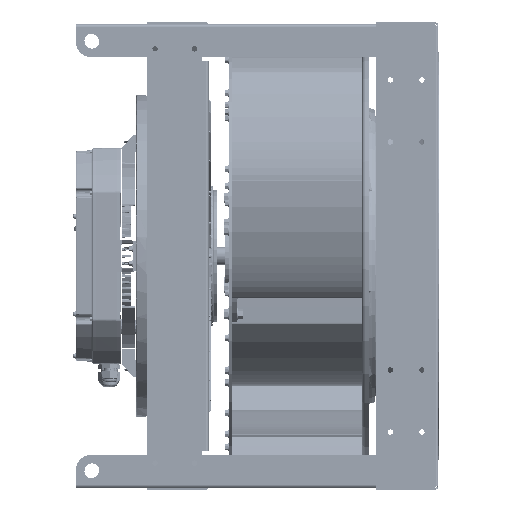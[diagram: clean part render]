
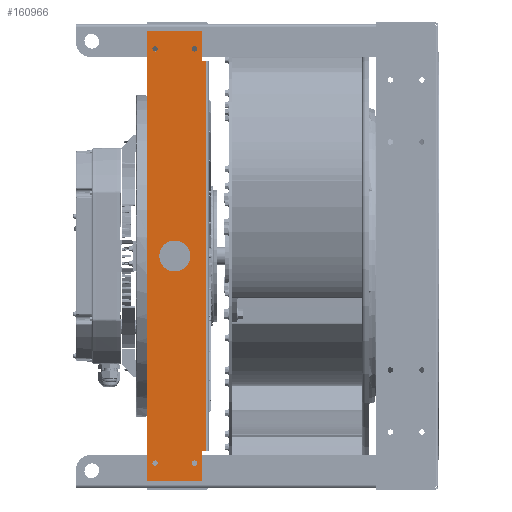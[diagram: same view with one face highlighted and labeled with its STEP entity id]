
A CAD part, left-side view. The second image highlights one B-rep face of the part: STEP entity #160966.
In plain terms, the highlighted planar face has unit normal (-1, 0, 0) as drawn and (0, 0, 1) by its records, which use the part's own axes.
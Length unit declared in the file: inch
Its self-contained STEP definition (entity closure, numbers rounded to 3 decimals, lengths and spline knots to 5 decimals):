
#7209 = DIRECTION ( 'NONE',  ( -1., 0., 0. ) ) ;
#9233 = ORIENTED_EDGE ( 'NONE', *, *, #70942, .T. ) ;
#12818 = EDGE_LOOP ( 'NONE', ( #206812 ) ) ;
#13230 = VERTEX_POINT ( 'NONE', #167557 ) ;
#15700 = VECTOR ( 'NONE', #266268, 39.37008 ) ;
#18831 = EDGE_CURVE ( 'NONE', #244716, #244716, #204477, .T. ) ;
#20230 = EDGE_LOOP ( 'NONE', ( #178543 ) ) ;
#22313 = ORIENTED_EDGE ( 'NONE', *, *, #107713, .T. ) ;
#23900 = EDGE_CURVE ( 'NONE', #242276, #100440, #273784, .T. ) ;
#24527 = CARTESIAN_POINT ( 'NONE',  ( 13.34586, -1.27, 0.135 ) ) ;
#27239 = VECTOR ( 'NONE', #7209, 39.37008 ) ;
#28139 = VECTOR ( 'NONE', #202901, 39.37008 ) ;
#30495 = CARTESIAN_POINT ( 'NONE',  ( 12.59586, 1.9775, 0.135 ) ) ;
#32855 = DIRECTION ( 'NONE',  ( 0., 1., 0. ) ) ;
#33824 = CARTESIAN_POINT ( 'NONE',  ( -13.51786, -1.27, 0.135 ) ) ;
#34122 = LINE ( 'NONE', #179728, #77515 ) ;
#37219 = FACE_BOUND ( 'NONE', #20230, .T. ) ;
#40032 = FACE_BOUND ( 'NONE', #12818, .T. ) ;
#42452 = CIRCLE ( 'NONE', #267873, 0.172 ) ;
#49960 = EDGE_CURVE ( 'NONE', #137004, #137004, #98098, .T. ) ;
#52677 = LINE ( 'NONE', #222283, #215603 ) ;
#54274 = CARTESIAN_POINT ( 'NONE',  ( -14.50586, -1.77, 0.135 ) ) ;
#55980 = ORIENTED_EDGE ( 'NONE', *, *, #23900, .T. ) ;
#56149 = CIRCLE ( 'NONE', #168271, 0.172 ) ;
#57424 = EDGE_CURVE ( 'NONE', #187196, #244423, #128300, .T. ) ;
#58000 = VECTOR ( 'NONE', #239805, 39.37008 ) ;
#61201 = FACE_OUTER_BOUND ( 'NONE', #190209, .T. ) ;
#64230 = DIRECTION ( 'NONE',  ( -1., 0., 0. ) ) ;
#64639 = DIRECTION ( 'NONE',  ( 0., 0., 1. ) ) ;
#68213 = DIRECTION ( 'NONE',  ( 0., 0., 1. ) ) ;
#70942 = EDGE_CURVE ( 'NONE', #13230, #187196, #52677, .T. ) ;
#73702 = ORIENTED_EDGE ( 'NONE', *, *, #143776, .T. ) ;
#74078 = DIRECTION ( 'NONE',  ( 1., 0., 0. ) ) ;
#77515 = VECTOR ( 'NONE', #223513, 39.37008 ) ;
#80729 = ORIENTED_EDGE ( 'NONE', *, *, #218689, .T. ) ;
#88155 = DIRECTION ( 'NONE',  ( 1., 0., 0. ) ) ;
#89069 = CARTESIAN_POINT ( 'NONE',  ( 14.50586, 1.77, 0.135 ) ) ;
#89703 = ORIENTED_EDGE ( 'NONE', *, *, #274205, .F. ) ;
#95271 = LINE ( 'NONE', #54274, #169107 ) ;
#97729 = EDGE_LOOP ( 'NONE', ( #89703 ) ) ;
#98098 = CIRCLE ( 'NONE', #256068, 0.172 ) ;
#98561 = EDGE_CURVE ( 'NONE', #157087, #244423, #139303, .T. ) ;
#100440 = VERTEX_POINT ( 'NONE', #181173 ) ;
#102221 = PLANE ( 'NONE',  #215011 ) ;
#103626 = CARTESIAN_POINT ( 'NONE',  ( 0., 0., 0.135 ) ) ;
#107713 = EDGE_CURVE ( 'NONE', #260534, #166821, #156127, .T. ) ;
#111193 = DIRECTION ( 'NONE',  ( -1., 0., 0. ) ) ;
#113214 = LINE ( 'NONE', #156958, #27239 ) ;
#118397 = DIRECTION ( 'NONE',  ( 0., -1., 0. ) ) ;
#121224 = CARTESIAN_POINT ( 'NONE',  ( -12.59586, 1.9775, 0.135 ) ) ;
#122853 = VERTEX_POINT ( 'NONE', #33824 ) ;
#124033 = DIRECTION ( 'NONE',  ( 1., 0., 0. ) ) ;
#125449 = DIRECTION ( 'NONE',  ( 0., 0., 1. ) ) ;
#126230 = FACE_BOUND ( 'NONE', #97729, .T. ) ;
#127778 = DIRECTION ( 'NONE',  ( 0., 0., 1. ) ) ;
#128300 = LINE ( 'NONE', #153638, #58000 ) ;
#136419 = VERTEX_POINT ( 'NONE', #154866 ) ;
#137004 = VERTEX_POINT ( 'NONE', #223200 ) ;
#137154 = EDGE_CURVE ( 'NONE', #122853, #122853, #278277, .T. ) ;
#139303 = LINE ( 'NONE', #30495, #28139 ) ;
#139979 = EDGE_LOOP ( 'NONE', ( #170920 ) ) ;
#141069 = ORIENTED_EDGE ( 'NONE', *, *, #49960, .F. ) ;
#143215 = FACE_BOUND ( 'NONE', #139979, .T. ) ;
#143776 = EDGE_CURVE ( 'NONE', #157087, #242276, #113214, .T. ) ;
#151275 = CARTESIAN_POINT ( 'NONE',  ( -14.50586, -1.77, 0.135 ) ) ;
#153638 = CARTESIAN_POINT ( 'NONE',  ( -14.50586, 1.77, 0.135 ) ) ;
#154866 = CARTESIAN_POINT ( 'NONE',  ( 13.51786, -1.27, 0.135 ) ) ;
#156127 = LINE ( 'NONE', #180090, #15700 ) ;
#156958 = CARTESIAN_POINT ( 'NONE',  ( 12.59586, 1.9775, 0.135 ) ) ;
#157087 = VERTEX_POINT ( 'NONE', #167047 ) ;
#158488 = ORIENTED_EDGE ( 'NONE', *, *, #98561, .F. ) ;
#160966 = ADVANCED_FACE ( 'NONE', ( #37219, #61201, #143215, #40032, #126230, #206799 ), #102221, .F. ) ;
#166821 = VERTEX_POINT ( 'NONE', #151275 ) ;
#167047 = CARTESIAN_POINT ( 'NONE',  ( 12.59586, 1.9775, 0.135 ) ) ;
#167557 = CARTESIAN_POINT ( 'NONE',  ( 14.50586, -1.77, 0.135 ) ) ;
#168271 = AXIS2_PLACEMENT_3D ( 'NONE', #24527, #127778, #88155 ) ;
#168688 = CARTESIAN_POINT ( 'NONE',  ( -12.59586, 1.9775, 0.135 ) ) ;
#169107 = VECTOR ( 'NONE', #74078, 39.37008 ) ;
#170920 = ORIENTED_EDGE ( 'NONE', *, *, #137154, .F. ) ;
#172006 = CARTESIAN_POINT ( 'NONE',  ( -13.34586, -1.27, 0.135 ) ) ;
#177777 = VERTEX_POINT ( 'NONE', #180539 ) ;
#178543 = ORIENTED_EDGE ( 'NONE', *, *, #18831, .F. ) ;
#178946 = AXIS2_PLACEMENT_3D ( 'NONE', #172006, #64639, #111193 ) ;
#179728 = CARTESIAN_POINT ( 'NONE',  ( -14.50586, 1.77, 0.135 ) ) ;
#180090 = CARTESIAN_POINT ( 'NONE',  ( -14.50586, -1.77, 0.135 ) ) ;
#180539 = CARTESIAN_POINT ( 'NONE',  ( -13.17385, 1.27, 0.135 ) ) ;
#181113 = CARTESIAN_POINT ( 'NONE',  ( 1., 0., 0.135 ) ) ;
#181173 = CARTESIAN_POINT ( 'NONE',  ( -12.59586, 1.77, 0.135 ) ) ;
#187196 = VERTEX_POINT ( 'NONE', #89069 ) ;
#188324 = EDGE_CURVE ( 'NONE', #100440, #260534, #34122, .T. ) ;
#190209 = EDGE_LOOP ( 'NONE', ( #22313, #80729, #9233, #231853, #158488, #73702, #55980, #229570 ) ) ;
#190858 = CARTESIAN_POINT ( 'NONE',  ( -14.50586, 1.77, 0.135 ) ) ;
#195986 = CARTESIAN_POINT ( 'NONE',  ( 12.59586, 1.77, 0.135 ) ) ;
#202901 = DIRECTION ( 'NONE',  ( 0., -1., 0. ) ) ;
#204477 = CIRCLE ( 'NONE', #236183, 1. ) ;
#206799 = FACE_BOUND ( 'NONE', #224488, .T. ) ;
#206812 = ORIENTED_EDGE ( 'NONE', *, *, #246778, .F. ) ;
#211024 = DIRECTION ( 'NONE',  ( 0., 0., -1. ) ) ;
#215011 = AXIS2_PLACEMENT_3D ( 'NONE', #103626, #211024, #233591 ) ;
#215247 = VECTOR ( 'NONE', #118397, 39.37008 ) ;
#215603 = VECTOR ( 'NONE', #32855, 39.37008 ) ;
#218689 = EDGE_CURVE ( 'NONE', #166821, #13230, #95271, .T. ) ;
#222283 = CARTESIAN_POINT ( 'NONE',  ( 14.50586, -1.77, 0.135 ) ) ;
#223200 = CARTESIAN_POINT ( 'NONE',  ( 13.17385, 1.27, 0.135 ) ) ;
#223513 = DIRECTION ( 'NONE',  ( -1., 0., 0. ) ) ;
#224488 = EDGE_LOOP ( 'NONE', ( #141069 ) ) ;
#229570 = ORIENTED_EDGE ( 'NONE', *, *, #188324, .T. ) ;
#231038 = CARTESIAN_POINT ( 'NONE',  ( 13.34586, 1.27, 0.135 ) ) ;
#231853 = ORIENTED_EDGE ( 'NONE', *, *, #57424, .T. ) ;
#233591 = DIRECTION ( 'NONE',  ( -1., 0., 0. ) ) ;
#236183 = AXIS2_PLACEMENT_3D ( 'NONE', #256797, #125449, #124033 ) ;
#236593 = DIRECTION ( 'NONE',  ( 0., 0., 1. ) ) ;
#239805 = DIRECTION ( 'NONE',  ( -1., 0., 0. ) ) ;
#240551 = DIRECTION ( 'NONE',  ( 1., 0., 0. ) ) ;
#242276 = VERTEX_POINT ( 'NONE', #168688 ) ;
#244423 = VERTEX_POINT ( 'NONE', #195986 ) ;
#244716 = VERTEX_POINT ( 'NONE', #181113 ) ;
#246778 = EDGE_CURVE ( 'NONE', #177777, #177777, #42452, .T. ) ;
#256068 = AXIS2_PLACEMENT_3D ( 'NONE', #231038, #236593, #64230 ) ;
#256797 = CARTESIAN_POINT ( 'NONE',  ( 0., 0., 0.135 ) ) ;
#260534 = VERTEX_POINT ( 'NONE', #190858 ) ;
#261753 = CARTESIAN_POINT ( 'NONE',  ( -13.34586, 1.27, 0.135 ) ) ;
#266268 = DIRECTION ( 'NONE',  ( 0., -1., 0. ) ) ;
#267873 = AXIS2_PLACEMENT_3D ( 'NONE', #261753, #68213, #240551 ) ;
#273784 = LINE ( 'NONE', #121224, #215247 ) ;
#274205 = EDGE_CURVE ( 'NONE', #136419, #136419, #56149, .T. ) ;
#278277 = CIRCLE ( 'NONE', #178946, 0.172 ) ;
